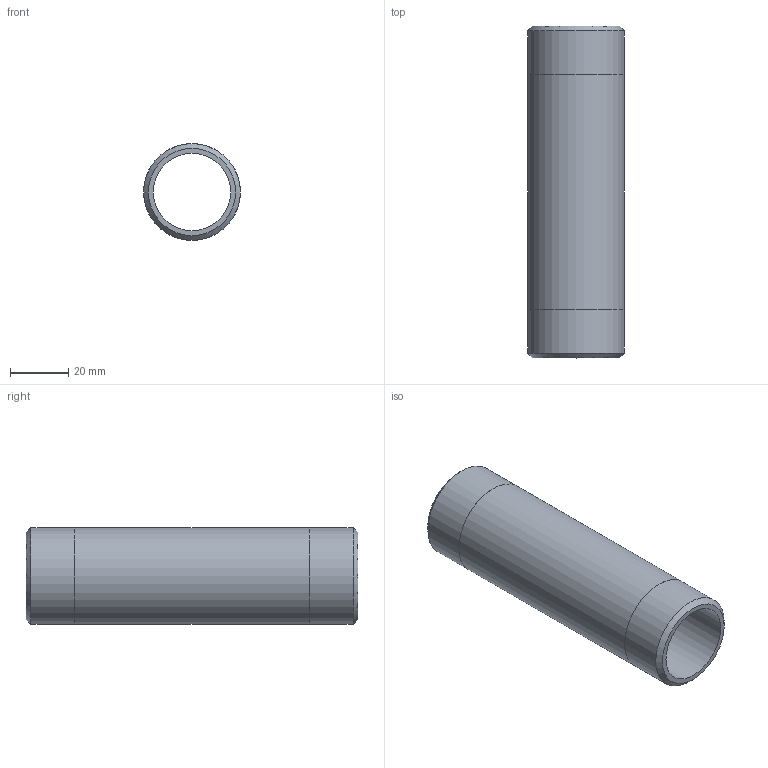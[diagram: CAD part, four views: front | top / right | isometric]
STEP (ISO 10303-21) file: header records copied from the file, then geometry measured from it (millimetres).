
FILE_DESCRIPTION(/* description */ (''),/* implementation_level */ '2;1');
FILE_NAME(/* name */ 'C:/Users/drich/Desktop/SSPN1-4-1_2 v1.step',/* time_stamp */ '2020-01-03T16:29:41-06:00',/* author */ (''),/* organization */ (''),/* preprocessor_version */ 'ST-DEVELOPER v18',/* originating_system */ 'Autodesk Translation Framework v8.12.0.6',/* authorisation */ '');
FILE_SCHEMA (('AUTOMOTIVE_DESIGN { 1 0 10303 214 3 1 1 }'));
Length unit declared in the file: inch
Products named in the file (1): SSPN1-4-1_2
Bounding box: 33.4 x 114.3 x 33.4 mm (x, y, z)
Volume: 36053.8 mm3; surface area: 21983.6 mm2
Topology: 1 solids, 1 shells, 10 faces, 24 edges, 18 vertices
Faces by surface type: cylinder 4, plane 4, cone 2
Full cylindrical faces by diameter (mm): 26.645 x1, 33.35 x2, 33.401 x1
Entity records: 353 total; most frequent: DIRECTION 64, CARTESIAN_POINT 53, ORIENTED_EDGE 48, AXIS2_PLACEMENT_3D 29, EDGE_CURVE 24, CIRCLE 18, VERTEX_POINT 18, EDGE_LOOP 14
